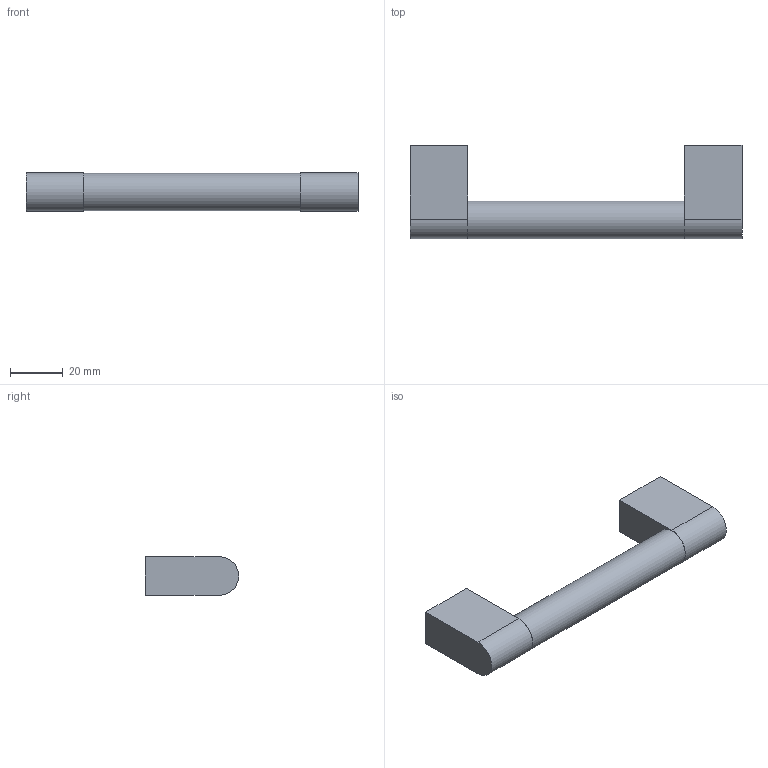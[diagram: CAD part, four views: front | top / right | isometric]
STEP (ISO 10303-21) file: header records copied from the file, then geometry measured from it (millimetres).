
FILE_DESCRIPTION( ( 'STEP AP214' ), '1' );
FILE_NAME( 'C:/Shahbaz/Shahbaz D&D/Task/Working-ON/Varna/QC/9332316.stp', '2023-08-29T06:54:01', ( '' ), ( '' ), ' ', 'PARTsolutions', ' ' );
FILE_SCHEMA( ( 'AUTOMOTIVE_DESIGN { 1 0 10303 214 1 1 1 1 }' ) );
Length unit declared in the file: millimetre
Products named in the file (1): _9332316
Bounding box: 126 x 35.36 x 14.64 mm (x, y, z)
Volume: 33846 mm3; surface area: 10027.9 mm2
Topology: 1 solids, 1 shells, 17 faces, 33 edges, 22 vertices
Faces by surface type: plane 12, cylinder 5
Full cylindrical faces by diameter (mm): 6.2 x2, 14.2 x1
Entity records: 574 total; most frequent: DIRECTION 76, CARTESIAN_POINT 70, ORIENTED_EDGE 60, EDGE_CURVE 30, AXIS2_PLACEMENT_3D 28, EDGE_LOOP 24, VERTEX_POINT 22, FACE_OUTER_BOUND 20
